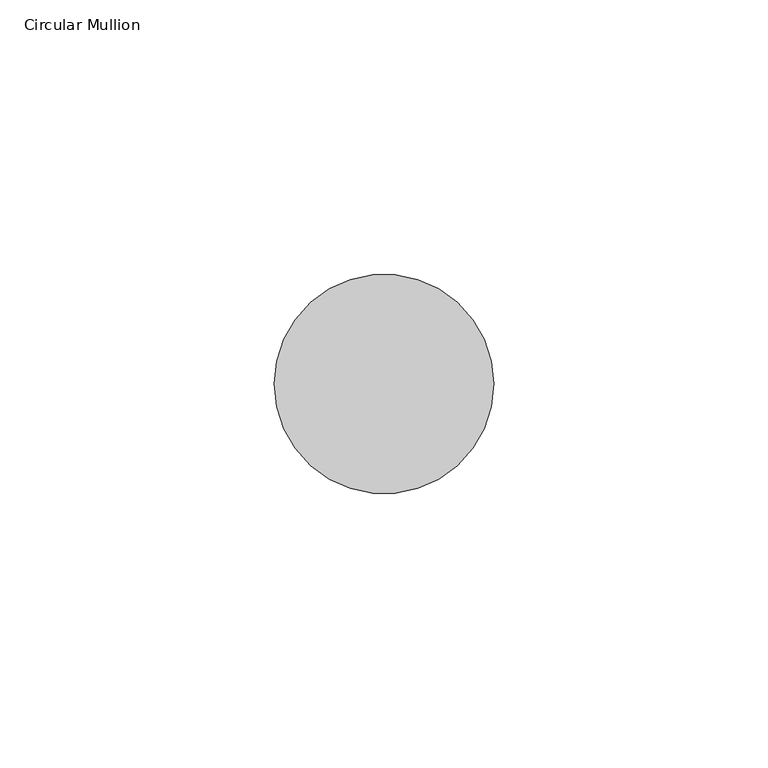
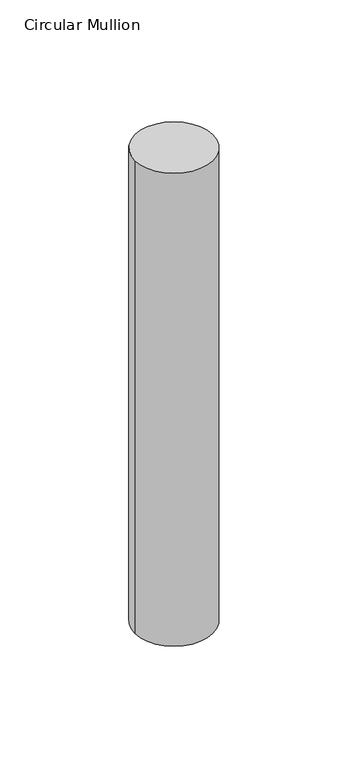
"""IFC4 building model written with IfcOpenShell, lengths in millimetres: member geometry, Circular Mullion : GRADIL 40mm."""

import ifcopenshell
import ifcopenshell.guid

model = None  # the IFC model being written
_history = None  # IfcOwnerHistory: only IFC2X3 demands one
_inside = {}  # id of a spatial element -> (the spatial element, [elements in it])
_under = {}  # id of a project, library or spatial element -> (it, [spatial elements below it])
_declared = {}  # id of a project -> (the project, [libraries it declares])
_typed = {}  # id of a type object -> (the type object, [elements of that type])
_made_of = {}  # id of a material, layer set ... -> (it, [elements and type objects made of it])


def new_model(schema):
    """Start an empty IFC model of exactly this schema.

    Asked for "IFC4X3", IfcOpenShell would pick the latest addendum, in which some entities
    have other attributes; the version numbers below select the first issue.
    IFC2X3 requires an IfcOwnerHistory on every rooted entity: one is made here for all.
    """
    global model, _history
    if schema == "IFC4X3":
        model = ifcopenshell.file(schema_version=(4, 3, 0, 0))
    else:
        model = ifcopenshell.file(schema=schema)
    _inside.clear()
    _under.clear()
    _declared.clear()
    _typed.clear()
    _made_of.clear()
    _history = None
    if model.schema == "IFC2X3":
        org = make("IfcOrganization", Name="unknown")
        user = make(
            "IfcPersonAndOrganization",
            ThePerson=make("IfcPerson", FamilyName="unknown"),
            TheOrganization=org,
        )
        app = make(
            "IfcApplication",
            ApplicationDeveloper=org,
            Version="unknown",
            ApplicationFullName="unknown",
            ApplicationIdentifier="unknown",
        )
        _history = make(
            "IfcOwnerHistory",
            OwningUser=user,
            OwningApplication=app,
            ChangeAction="ADDED",
            CreationDate=0,
        )
    return model


def make(cls, **values):
    """One entity of the class cls with the attributes given. An attribute that is None is left unset."""
    return model.create_entity(
        cls, **{name: value for name, value in values.items() if value is not None}
    )


def rooted(cls, **values):
    """An entity with a GlobalId (a new one), such as an element, a storey or a relation."""
    return make(cls, GlobalId=ifcopenshell.guid.new(), OwnerHistory=_history, **values)


def si_unit(unit_type, name, prefix=None):
    """IfcSIUnit, for example si_unit("LENGTHUNIT", "METRE", prefix="MILLI")."""
    return make("IfcSIUnit", UnitType=unit_type, Prefix=prefix, Name=name)


def assignment(units):
    """IfcUnitAssignment: the units of a project."""
    return None if units is None else make("IfcUnitAssignment", Units=units)


def point(xyz):
    """IfcCartesianPoint."""
    return None if xyz is None else make("IfcCartesianPoint", Coordinates=xyz)


def direction(xyz):
    """IfcDirection."""
    return None if xyz is None else make("IfcDirection", DirectionRatios=xyz)


def frame(location, z_axis=None, x_axis=None):
    """IfcAxis2Placement3D, a coordinate frame: its origin and axes. An axis left out is left unset."""
    return make(
        "IfcAxis2Placement3D",
        Location=point(location),
        Axis=direction(z_axis),
        RefDirection=direction(x_axis),
    )


def frame_2d(location, x_axis=None):
    """IfcAxis2Placement2D, a coordinate frame in the plane: its origin and x axis."""
    return make(
        "IfcAxis2Placement2D", Location=point(location), RefDirection=direction(x_axis)
    )


def origin():
    """The frame at (0, 0, 0) with its axes left unset."""
    return frame((0.0, 0.0, 0.0))


def origin_2d():
    """The frame at (0, 0) in the plane with its x axis left unset."""
    return frame_2d((0.0, 0.0))


def place(relative_to, where):
    """IfcLocalPlacement: puts the frame where relative to a parent placement (None: the world)."""
    return make(
        "IfcLocalPlacement", PlacementRelTo=relative_to, RelativePlacement=where
    )


def context(
    kind, dimensions, precision=None, world=None, true_north=None, identifier=None
):
    """IfcGeometricRepresentationContext, for example the 3D "Model" context."""
    return make(
        "IfcGeometricRepresentationContext",
        ContextIdentifier=identifier,
        ContextType=kind,
        CoordinateSpaceDimension=dimensions,
        Precision=precision,
        WorldCoordinateSystem=world,
        TrueNorth=true_north,
    )


def project(units=None, contexts=None):
    """IfcProject with its units and contexts."""
    return rooted(
        "IfcProject",
        Name="project",
        RepresentationContexts=contexts,
        UnitsInContext=assignment(units),
    )


def spatial(cls, under=None, at=None, **own):
    """A site, building, storey or space (cls), placed at a placement, below another one or the project."""
    s = rooted(cls, ObjectPlacement=at, **own)
    if under is not None:
        _under.setdefault(under.id(), (under, []))[1].append(s)
    return s


def circle_curve(where, radius):
    """IfcCircle in the frame where."""
    return make("IfcCircle", Position=where, Radius=radius)


def trimmed(basis, trim1, trim2, sense, master):
    """IfcTrimmedCurve: the piece of a basis curve between two trims."""
    return make(
        "IfcTrimmedCurve",
        BasisCurve=basis,
        Trim1=trim1,
        Trim2=trim2,
        SenseAgreement=sense,
        MasterRepresentation=master,
    )


def segment(curve, same_sense, transition):
    """IfcCompositeCurveSegment."""
    return make(
        "IfcCompositeCurveSegment",
        Transition=transition,
        SameSense=same_sense,
        ParentCurve=curve,
    )


def composite_curve(segments, self_intersect=None):
    """IfcCompositeCurve: segments joined end to end."""
    return make("IfcCompositeCurve", Segments=segments, SelfIntersect=self_intersect)


def outline(outer, holes=None, kind="AREA"):
    """IfcArbitraryClosedProfileDef: a profile drawn as a closed curve; with holes, ...WithVoids."""
    if holes is None:
        return make("IfcArbitraryClosedProfileDef", ProfileType=kind, OuterCurve=outer)
    return make(
        "IfcArbitraryProfileDefWithVoids",
        ProfileType=kind,
        OuterCurve=outer,
        InnerCurves=holes,
    )


def extrude(swept, where, along, depth):
    """IfcExtrudedAreaSolid: the profile swept, set in the frame where, extruded along a direction by depth."""
    return make(
        "IfcExtrudedAreaSolid",
        SweptArea=swept,
        Position=where,
        ExtrudedDirection=direction(along),
        Depth=depth,
    )


def shape(context_of_items, identifier, shape_type, items):
    """IfcShapeRepresentation: the items that make up one representation, for example the "Body"."""
    return make(
        "IfcShapeRepresentation",
        ContextOfItems=context_of_items,
        RepresentationIdentifier=identifier,
        RepresentationType=shape_type,
        Items=items,
    )


def source(mapping_origin, context_of_items, identifier, shape_type, items):
    """IfcRepresentationMap: a shape defined once, which mapped items show again and again."""
    return make(
        "IfcRepresentationMap",
        MappingOrigin=mapping_origin,
        MappedRepresentation=shape(context_of_items, identifier, shape_type, items),
    )


def transform(
    local_origin,
    x_axis=None,
    y_axis=None,
    z_axis=None,
    scale=None,
    scale2=None,
    scale3=None,
    uniform=True,
):
    """IfcCartesianTransformationOperator3D, or its non-uniform kind. x_axis, y_axis, z_axis: its Axis1, 2, 3."""
    if uniform:
        return make(
            "IfcCartesianTransformationOperator3D",
            Axis1=direction(x_axis),
            Axis2=direction(y_axis),
            LocalOrigin=point(local_origin),
            Scale=scale,
            Axis3=direction(z_axis),
        )
    return make(
        "IfcCartesianTransformationOperator3DnonUniform",
        Axis1=direction(x_axis),
        Axis2=direction(y_axis),
        LocalOrigin=point(local_origin),
        Scale=scale,
        Axis3=direction(z_axis),
        Scale2=scale2,
        Scale3=scale3,
    )


def mapped(mapping_source, mapping_target):
    """IfcMappedItem: shows the shape of a source again, moved by a transform."""
    return make(
        "IfcMappedItem", MappingSource=mapping_source, MappingTarget=mapping_target
    )


def made_of(thing, what):
    """Note that an element or type object is made of a material, layer set ...; save() writes the relation."""
    if what is not None:
        _made_of.setdefault(what.id(), (what, []))[1].append(thing)
    return thing


def element(
    cls,
    number,
    at=None,
    inside=None,
    cuts=None,
    type_object=None,
    material=None,
    context=None,
    identifier="Body",
    shape_type=None,
    held_by="IfcProductDefinitionShape",
    body=None,
    shapes=None,
    **own,
):
    """One element of the class cls, such as IfcWall. Its Tag is "e" and its number.

    at: its placement. inside: the storey or other place that contains it. cuts: it is an
    opening in that element (IfcRelVoidsElement). A single representation is given by context,
    identifier, shape_type and body (its items); several are given by shapes. held_by: the class
    of the entity that holds the representations. save() writes the other relations.
    """
    e = rooted(cls, Tag="e%d" % number, ObjectPlacement=at, **own)
    if body is not None:
        shapes = [shape(context, identifier, shape_type, body)]
    if shapes is not None:
        e.Representation = make(held_by, Representations=shapes)
    if inside is not None:
        _inside.setdefault(inside.id(), (inside, []))[1].append(e)
    if cuts is not None:
        rooted(
            "IfcRelVoidsElement", RelatingBuildingElement=cuts, RelatedOpeningElement=e
        )
    if type_object is not None:
        _typed.setdefault(type_object.id(), (type_object, []))[1].append(e)
    return made_of(e, material)


def aggregate(whole, parts):
    """IfcRelAggregates: a whole, such as a stair, and the parts it consists of."""
    return rooted("IfcRelAggregates", RelatingObject=whole, RelatedObjects=parts)


def save(model, path):
    """Write the relations noted so far, then the file.

    IfcRelAggregates (storeys below a building ...), IfcRelContainedInSpatialStructure (elements
    in a storey), IfcRelDefinesByType, IfcRelAssociatesMaterial and IfcRelDeclares: one each for
    every whole, place, type object, material and project.
    """
    for whole, parts in _under.values():
        aggregate(whole, parts)
    for where, things in _inside.values():
        rooted(
            "IfcRelContainedInSpatialStructure",
            RelatedElements=things,
            RelatingStructure=where,
        )
    for kind, things in _typed.values():
        rooted("IfcRelDefinesByType", RelatedObjects=things, RelatingType=kind)
    for what, things in _made_of.values():
        rooted("IfcRelAssociatesMaterial", RelatedObjects=things, RelatingMaterial=what)
    for by, libraries in _declared.values():
        rooted("IfcRelDeclares", RelatingContext=by, RelatedDefinitions=libraries)
    model.write(path)


def circular_mullion_9bc5a1a1(model_context):
    return source(origin(), model_context, "Body", "SweptSolid", [
        extrude(outline(composite_curve([segment(trimmed(circle_curve(origin_2d(), 20.0), [point((20.0, 0.0))], [point((-20.0, 0.0))], False, "CARTESIAN"), True, "CONTINUOUS"), segment(trimmed(circle_curve(origin_2d(), 20.0), [point((-20.0, 0.0))], [point((20.0, 0.0))], False, "CARTESIAN"), True, "CONTINUOUS")], self_intersect=False)), frame((0.0, 0.0, -256.7936467), z_axis=(0.0, 0.0, 1.0), x_axis=(1.0, 0.0, 0.0)), (0.0, 0.0, 1.0), 256.7936467),
    ])


if __name__ == "__main__":
    model = new_model("IFC4")
    model_context = context("Model", 3, world=origin())
    ifc_project = project(units=[si_unit("LENGTHUNIT", "METRE", prefix="MILLI")], contexts=[model_context])
    site = spatial("IfcSite", under=ifc_project)
    building = spatial("IfcBuilding", under=site)
    placement = place(None, origin())
    circular_mullion_shape = circular_mullion_9bc5a1a1(model_context)
    element("IfcMember", 1, ObjectType="Circular Mullion : GRADIL 40mm", at=placement, inside=building, context=model_context, shape_type="MappedRepresentation", body=[
        mapped(circular_mullion_shape, transform((0.0, 0.0, 0.0), x_axis=(1.0, 0.0, 0.0), y_axis=(0.0, 1.0, 0.0), z_axis=(0.0, 0.0, 1.0))),
    ])
    save(model, "model.ifc")
